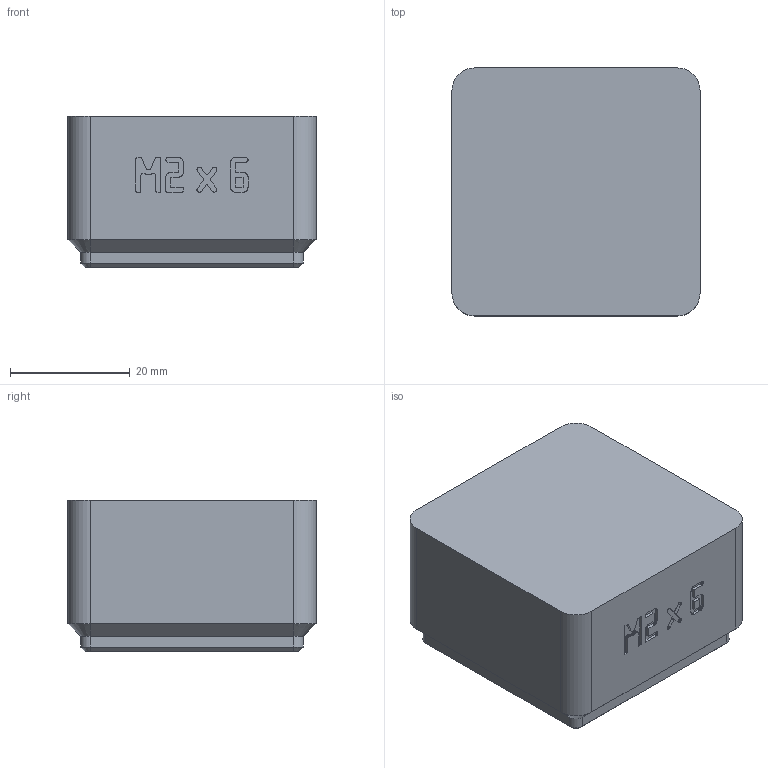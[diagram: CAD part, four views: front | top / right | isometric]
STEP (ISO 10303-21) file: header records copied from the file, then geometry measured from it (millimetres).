
FILE_DESCRIPTION(('Open CASCADE Model'),'2;1');
FILE_NAME('Open CASCADE Shape Model','2026-11-03T16:22:36',('Author'),( 'Open CASCADE'),'Open CASCADE STEP processor 8.0','build123d', 'Unknown');
FILE_SCHEMA(('AUTOMOTIVE_DESIGN { 1 0 10303 214 1 1 1 1 }'));
Products named in the file (1): COMPOUND
Bounding box: 41.5 x 41.5 x 25.4 mm (x, y, z)
Volume: 14687.9 mm3; surface area: 13515.8 mm2
Topology: 1 solids, 2 shells, 983 faces, 2864 edges, 1896 vertices
Faces by surface type: plane 947, cylinder 16, cone 12, bspline 8
Entity records: 68966 total; most frequent: CARTESIAN_POINT 11736, DIRECTION 10444, LINE 8388, VECTOR 8388, ORIENTED_EDGE 5728, PCURVE 5728, DEFINITIONAL_REPRESENTATION 5728, EDGE_CURVE 2864
